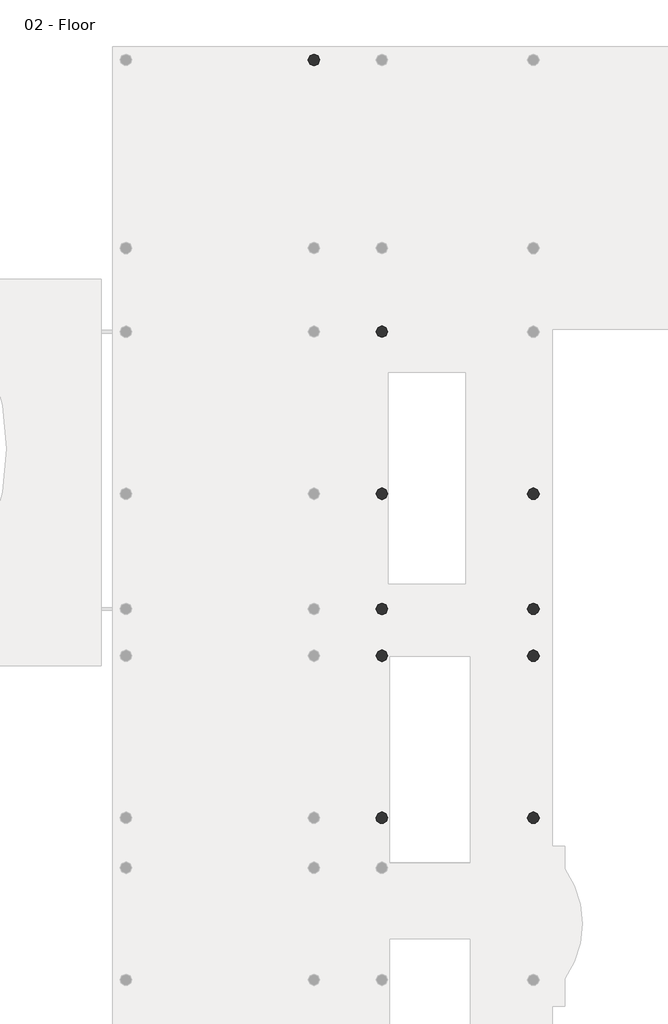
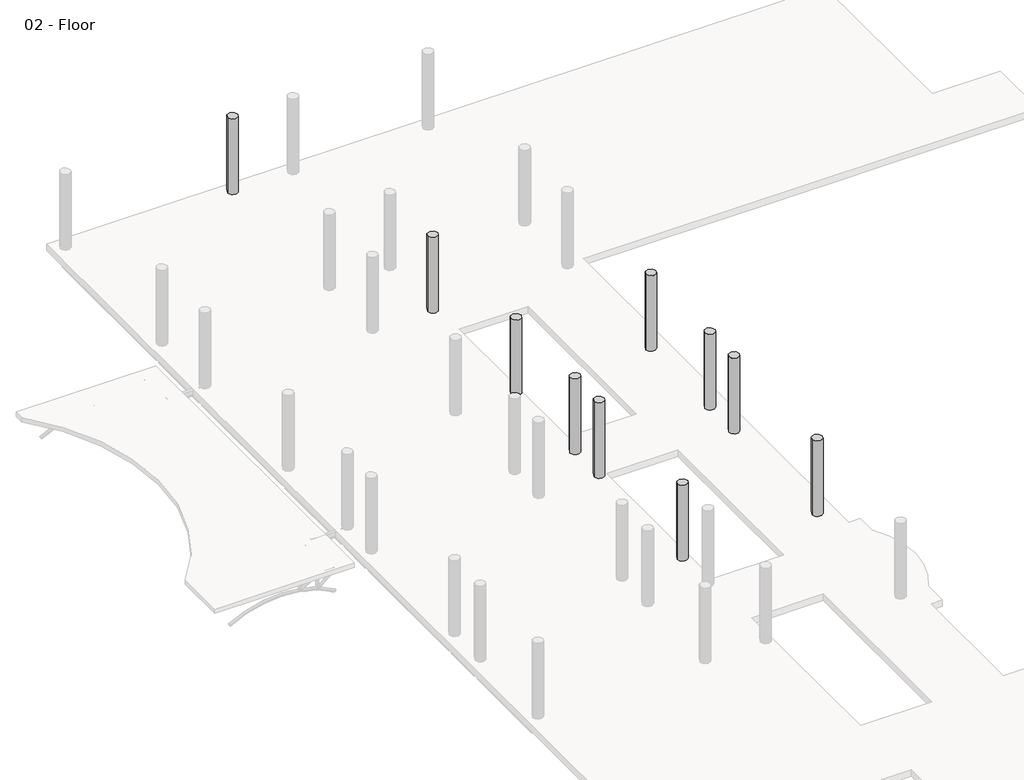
# One storey, part 8 of 9: 14 beams, 10 columns.
"""IFC4 building model written with IfcOpenShell, lengths in millimetres."""

from ifc_helpers import new_model, si_unit, point, frame, frame_2d, origin, place, context, project, spatial, polyline, circle_curve, trimmed, segment, composite_curve, outline, extrude, element, save
from ifc_brep_helpers import plane_surface, revolved_surface, advanced_brep

model = new_model("IFC4")

# Units and contexts
model_context = context("Model", 3, world=origin())
ifc_project = project(units=[si_unit("LENGTHUNIT", "METRE", prefix="MILLI")], contexts=[model_context])

# Site, building, storey
site = spatial("IfcSite", under=ifc_project)
building = spatial("IfcBuilding", under=site)
storey = spatial("IfcBuildingStorey", under=building, Name="02 - Floor", Elevation=3800.0)

# Beams
placement = place(None, origin())
element("IfcBeam", 1, ObjectType="M_Concrete-Rectangular Beam : 400 x 800mm", at=placement, inside=storey, context=model_context, shape_type="AdvancedBrep", body=[
    advanced_brep(
    [(554.8005584, 19324.2609793, 3000.0), (554.8005584, 19227.3386199, 3000.0), (554.8005584, 13328.1386199, 3000.0), (554.8005584, 13231.2162606, 3000.0), (554.8005584, 13231.2162606, 3500.0), (554.8005584, 13328.1386199, 3500.0), (554.8005584, 19227.3386199, 3500.0), (554.8005584, 19324.2609793, 3500.0), (857.878199, 19227.3386199, 3000.0), (954.8005584, 19227.3386199, 3000.0), (954.8005584, 13231.2162606, 3000.0), (954.8005584, 19227.3386199, 3500.0), (954.8005584, 13231.2162606, 3500.0), (857.878199, 19227.3386199, 3500.0)],
    [
        (0, 1),
        (1, 2),
        (2, 3),
        (3, 4),
        (4, 5),
        (5, 6),
        (6, 7),
        (7, 0),
        (0, 8, circle_curve(frame((754.8005584, 19427.3386199, 3000.0), z_axis=(0.0, 0.0, 1.0), x_axis=(-1.0, 0.0, 0.0)), 225.0)),
        (8, 9),
        (9, 10),
        (10, 3, circle_curve(frame((754.8005584, 13128.1386199, 3000.0), z_axis=(0.0, 0.0, 1.0), x_axis=(-1.0, 0.0, 0.0)), 225.0)),
        (9, 11),
        (11, 12),
        (12, 10),
        (7, 13, circle_curve(frame((754.8005584, 19427.3386199, 3500.0), z_axis=(0.0, 0.0, 1.0), x_axis=(-1.0, 0.0, 0.0)), 225.0)),
        (13, 8),
        (13, 11),
        (12, 4, circle_curve(frame((754.8005584, 13128.1386199, 3500.0), z_axis=(0.0, 0.0, 1.0), x_axis=(-1.0, 0.0, 0.0)), 225.0)),
    ],
    [
        plane_surface(frame((554.8005584, 13365.8386199, 3400.0), z_axis=(-1.0, 0.0, 0.0), x_axis=(0.0, 0.0, -1.0))),
        plane_surface(frame((754.8005584, 13365.8386199, 3000.0), z_axis=(0.0, 0.0, -1.0), x_axis=(1.0, 0.0, 0.0))),
        plane_surface(frame((954.8005584, 13365.8386199, 3400.0), z_axis=(1.0, 0.0, 0.0), x_axis=(0.0, 0.0, 1.0))),
        revolved_surface(polyline([(529.8005584, 19427.3386199, 3500.0), (529.8005584, 19427.3386199, 3000.0)]), (754.8005584, 19427.3386199, 0.0), (0.0, 0.0, 1.0)),
        plane_surface(frame((992.5005584, 19227.3386199, 3400.0), z_axis=(0.0, 1.0, 0.0), x_axis=(0.0, 0.0, 1.0))),
        revolved_surface(polyline([(529.8005584, 13128.1386199, 3500.0), (529.8005584, 13128.1386199, 3000.0)]), (754.8005584, 13128.1386199, 0.0), (0.0, 0.0, 1.0)),
        plane_surface(frame((24268.8999097, 30514.0407562, 3500.0), z_axis=(0.0, 0.0, 1.0), x_axis=(0.0, -1.0, 0.0))),
    ],
    [
        (0, [[1, 2, 3, 4, 5, 6, 7, 8]]),
        (1, [[9, 10, 11, 12, -3, -2, -1]]),
        (2, [[-11, 13, 14, 15]]),
        (3, [[-9, -8, 16, 17]]),
        (4, [[-10, -17, 18, -13]]),
        (5, [[-12, -15, 19, -4]]),
        (6, [[-7, -6, -5, -19, -14, -18, -16]]),
    ],
),
])
element("IfcBeam", 2, ObjectType="M_Concrete-Rectangular Beam : 400 x 800mm", at=placement, inside=storey, context=model_context, shape_type="AdvancedBrep", body=[
    advanced_brep(
    [(554.8005584, 8752.0162606, 3000.0), (554.8005584, 8752.0162606, 3500.0), (554.8005584, 8848.9386199, 3500.0), (554.8005584, 12928.1386199, 3500.0), (554.8005584, 12928.1386199, 3000.0), (554.8005584, 8848.9386199, 3000.0), (954.8005584, 13025.0609793, 3000.0), (954.8005584, 8848.9386199, 3000.0), (954.8005584, 8752.0162606, 3000.0), (651.7229178, 12928.1386199, 3000.0), (954.8005584, 13025.0609793, 3500.0), (954.8005584, 8848.9386199, 3500.0), (954.8005584, 8752.0162606, 3500.0), (651.7229178, 12928.1386199, 3500.0)],
    [
        (0, 1),
        (1, 2),
        (2, 3),
        (3, 4),
        (4, 5),
        (5, 0),
        (6, 7),
        (7, 8),
        (8, 0, circle_curve(frame((754.8005584, 8648.9386199, 3000.0), z_axis=(0.0, 0.0, 1.0), x_axis=(1.0, 0.0, 0.0)), 225.0)),
        (4, 9),
        (9, 6, circle_curve(frame((754.8005584, 13128.1386199, 3000.0), z_axis=(0.0, 0.0, 1.0), x_axis=(-1.0, 0.0, 0.0)), 225.0)),
        (6, 10),
        (10, 11),
        (11, 12),
        (12, 8),
        (9, 13),
        (13, 10, circle_curve(frame((754.8005584, 13128.1386199, 3500.0), z_axis=(0.0, 0.0, 1.0), x_axis=(-1.0, 0.0, 0.0)), 225.0)),
        (12, 1, circle_curve(frame((754.8005584, 8648.9386199, 3500.0), z_axis=(0.0, 0.0, 1.0), x_axis=(1.0, 0.0, 0.0)), 225.0)),
        (13, 3),
    ],
    [
        plane_surface(frame((554.8005584, 8886.6386199, 3400.0), z_axis=(-1.0, 0.0, 0.0), x_axis=(0.0, 0.0, -1.0))),
        plane_surface(frame((754.8005584, 8886.6386199, 3000.0), z_axis=(0.0, 0.0, -1.0), x_axis=(1.0, 0.0, 0.0))),
        plane_surface(frame((954.8005584, 8886.6386199, 3400.0), z_axis=(1.0, 0.0, 0.0), x_axis=(0.0, 0.0, 1.0))),
        revolved_surface(polyline([(529.8005584, 13128.1386199, 3500.0), (529.8005584, 13128.1386199, 3000.0)]), (754.8005584, 13128.1386199, 0.0), (0.0, 0.0, 1.0)),
        revolved_surface(polyline([(979.8005584, 8648.9386199, 3500.0), (979.8005584, 8648.9386199, 3000.0)]), (754.8005584, 8648.9386199, 0.0), (0.0, 0.0, 1.0)),
        plane_surface(frame((24268.8999097, 30514.0407562, 3500.0), z_axis=(0.0, 0.0, 1.0), x_axis=(0.0, -1.0, 0.0))),
        plane_surface(frame((-1649.0994416, 12928.1386199, 3400.0), z_axis=(0.0, 1.0, 0.0), x_axis=(0.0, 0.0, 1.0))),
    ],
    [
        (0, [[1, 2, 3, 4, 5, 6]]),
        (1, [[7, 8, 9, -6, -5, 10, 11]]),
        (2, [[-8, -7, 12, 13, 14, 15]]),
        (3, [[-12, -11, 16, 17]]),
        (4, [[-9, -15, 18, -1]]),
        (5, [[-14, -13, -17, 19, -3, -2, -18]]),
        (6, [[-4, -19, -16, -10]]),
    ],
),
])
element("IfcBeam", 3, ObjectType="M_Concrete-Rectangular Beam : 400 x 800mm", at=placement, inside=storey, context=model_context, shape_type="AdvancedBrep", body=[
    advanced_brep(
    [(554.8005584, 8448.9386199, 3000.0), (554.8005584, 7028.9386199, 3000.0), (554.8005584, 6932.0162606, 3000.0), (554.8005584, 6932.0162606, 3500.0), (554.8005584, 7028.9386199, 3500.0), (554.8005584, 8448.9386199, 3500.0), (954.8005584, 6932.0162606, 3000.0), (651.7229178, 8448.9386199, 3000.0), (954.8005584, 8545.8609793, 3000.0), (954.8005584, 8448.9386199, 3000.0), (954.8005584, 8545.8609793, 3500.0), (954.8005584, 8448.9386199, 3500.0), (954.8005584, 6932.0162606, 3500.0), (651.7229178, 8448.9386199, 3500.0)],
    [
        (0, 1),
        (1, 2),
        (2, 3),
        (3, 4),
        (4, 5),
        (5, 0),
        (6, 2, circle_curve(frame((754.8005584, 6828.9386199, 3000.0), z_axis=(0.0, 0.0, 1.0), x_axis=(-1.0, 0.0, 0.0)), 225.0)),
        (0, 7),
        (7, 8, circle_curve(frame((754.8005584, 8648.9386199, 3000.0), z_axis=(0.0, 0.0, 1.0), x_axis=(1.0, 0.0, 0.0)), 225.0)),
        (8, 9),
        (9, 6),
        (8, 10),
        (10, 11),
        (11, 12),
        (12, 6),
        (12, 3, circle_curve(frame((754.8005584, 6828.9386199, 3500.0), z_axis=(0.0, 0.0, 1.0), x_axis=(-1.0, 0.0, 0.0)), 225.0)),
        (7, 13),
        (13, 10, circle_curve(frame((754.8005584, 8648.9386199, 3500.0), z_axis=(0.0, 0.0, 1.0), x_axis=(1.0, 0.0, 0.0)), 225.0)),
        (5, 13),
    ],
    [
        plane_surface(frame((554.8005584, 7066.6386199, 3400.0), z_axis=(-1.0, 0.0, 0.0), x_axis=(0.0, 0.0, -1.0))),
        plane_surface(frame((754.8005584, 7066.6386199, 3000.0), z_axis=(0.0, 0.0, -1.0), x_axis=(1.0, 0.0, 0.0))),
        plane_surface(frame((954.8005584, 7066.6386199, 3400.0), z_axis=(1.0, 0.0, 0.0), x_axis=(0.0, 0.0, 1.0))),
        revolved_surface(polyline([(529.8005584, 6828.9386199, 3500.0), (529.8005584, 6828.9386199, 3000.0)]), (754.8005584, 6828.9386199, 0.0), (0.0, 0.0, 1.0)),
        revolved_surface(polyline([(979.8005584, 8648.9386199, 3500.0), (979.8005584, 8648.9386199, 3000.0)]), (754.8005584, 8648.9386199, 0.0), (0.0, 0.0, 1.0)),
        plane_surface(frame((517.1005584, 8448.9386199, 3400.0), z_axis=(0.0, 1.0, 0.0), x_axis=(0.0, 0.0, -1.0))),
        plane_surface(frame((24268.8999097, 30514.0407562, 3500.0), z_axis=(0.0, 0.0, 1.0), x_axis=(0.0, -1.0, 0.0))),
    ],
    [
        (0, [[1, 2, 3, 4, 5, 6]]),
        (1, [[7, -2, -1, 8, 9, 10, 11]]),
        (2, [[-11, -10, 12, 13, 14, 15]]),
        (3, [[-7, -15, 16, -3]]),
        (4, [[-9, 17, 18, -12]]),
        (5, [[-8, -6, 19, -17]]),
        (6, [[-5, -4, -16, -14, -13, -18, -19]]),
    ],
),
])
element("IfcBeam", 4, ObjectType="M_Concrete-Rectangular Beam : 400 x 800mm", at=placement, inside=storey, context=model_context, shape_type="AdvancedBrep", body=[
    advanced_brep(
    [(554.8005584, 632.8162606, 3000.0), (554.8005584, 632.8162606, 3500.0), (554.8005584, 729.7386199, 3500.0), (554.8005584, 6628.9386199, 3500.0), (554.8005584, 6628.9386199, 3000.0), (554.8005584, 729.7386199, 3000.0), (954.8005584, 6725.8609793, 3000.0), (954.8005584, 632.8162606, 3000.0), (651.7229178, 6628.9386199, 3000.0), (954.8005584, 6725.8609793, 3500.0), (954.8005584, 632.8162606, 3500.0), (651.7229178, 6628.9386199, 3500.0)],
    [
        (0, 1),
        (1, 2),
        (2, 3),
        (3, 4),
        (4, 5),
        (5, 0),
        (6, 7),
        (7, 0, circle_curve(frame((754.8005584, 529.7386199, 3000.0), z_axis=(0.0, 0.0, 1.0), x_axis=(-1.0, 0.0, 0.0)), 225.0)),
        (4, 8),
        (8, 6, circle_curve(frame((754.8005584, 6828.9386199, 3000.0), z_axis=(0.0, 0.0, 1.0), x_axis=(-1.0, 0.0, 0.0)), 225.0)),
        (6, 9),
        (9, 10),
        (10, 7),
        (8, 11),
        (11, 9, circle_curve(frame((754.8005584, 6828.9386199, 3500.0), z_axis=(0.0, 0.0, 1.0), x_axis=(-1.0, 0.0, 0.0)), 225.0)),
        (10, 1, circle_curve(frame((754.8005584, 529.7386199, 3500.0), z_axis=(0.0, 0.0, 1.0), x_axis=(-1.0, 0.0, 0.0)), 225.0)),
        (11, 3),
    ],
    [
        plane_surface(frame((554.8005584, 767.4386199, 3400.0), z_axis=(-1.0, 0.0, 0.0), x_axis=(0.0, 0.0, -1.0))),
        plane_surface(frame((754.8005584, 767.4386199, 3000.0), z_axis=(0.0, 0.0, -1.0), x_axis=(1.0, 0.0, 0.0))),
        plane_surface(frame((954.8005584, 767.4386199, 3400.0), z_axis=(1.0, 0.0, 0.0), x_axis=(0.0, 0.0, 1.0))),
        revolved_surface(polyline([(529.8005584, 6828.9386199, 3500.0), (529.8005584, 6828.9386199, 3000.0)]), (754.8005584, 6828.9386199, 0.0), (0.0, 0.0, 1.0)),
        revolved_surface(polyline([(529.8005584, 529.7386199, 3500.0), (529.8005584, 529.7386199, 3000.0)]), (754.8005584, 529.7386199, 0.0), (0.0, 0.0, 1.0)),
        plane_surface(frame((24268.8999097, 30514.0407562, 3500.0), z_axis=(0.0, 0.0, 1.0), x_axis=(0.0, -1.0, 0.0))),
        plane_surface(frame((-1649.0994416, 6628.9386199, 3400.0), z_axis=(0.0, 1.0, 0.0), x_axis=(0.0, 0.0, 1.0))),
    ],
    [
        (0, [[1, 2, 3, 4, 5, 6]]),
        (1, [[7, 8, -6, -5, 9, 10]]),
        (2, [[-7, 11, 12, 13]]),
        (3, [[-11, -10, 14, 15]]),
        (4, [[-8, -13, 16, -1]]),
        (5, [[-12, -15, 17, -3, -2, -16]]),
        (6, [[-4, -17, -14, -9]]),
    ],
),
])
element("IfcBeam", 5, ObjectType="M_Concrete-Rectangular Beam : 400 x 800mm", at=placement, inside=storey, context=model_context, shape_type="AdvancedBrep", body=[
    advanced_brep(
    [(6447.6005584, 19324.2609793, 3000.0), (6447.6005584, 19227.3386199, 3000.0), (6447.6005584, 13231.2162606, 3000.0), (6447.6005584, 13231.2162606, 3500.0), (6447.6005584, 19227.3386199, 3500.0), (6447.6005584, 19324.2609793, 3500.0), (6847.6005584, 19324.2609793, 3000.0), (6847.6005584, 13231.2162606, 3000.0), (6847.6005584, 19324.2609793, 3500.0), (6847.6005584, 13231.2162606, 3500.0)],
    [
        (0, 1),
        (1, 2),
        (2, 3),
        (3, 4),
        (4, 5),
        (5, 0),
        (0, 6, circle_curve(frame((6647.6005584, 19427.3386199, 3000.0), z_axis=(0.0, 0.0, 1.0), x_axis=(-1.0, 0.0, 0.0)), 225.0)),
        (6, 7),
        (7, 2, circle_curve(frame((6647.6005584, 13128.1386199, 3000.0), z_axis=(0.0, 0.0, 1.0), x_axis=(-1.0, 0.0, 0.0)), 225.0)),
        (6, 8),
        (8, 9),
        (9, 7),
        (5, 8, circle_curve(frame((6647.6005584, 19427.3386199, 3500.0), z_axis=(0.0, 0.0, 1.0), x_axis=(-1.0, 0.0, 0.0)), 225.0)),
        (9, 3, circle_curve(frame((6647.6005584, 13128.1386199, 3500.0), z_axis=(0.0, 0.0, 1.0), x_axis=(-1.0, 0.0, 0.0)), 225.0)),
    ],
    [
        plane_surface(frame((6447.6005584, 13365.8386199, 3400.0), z_axis=(-1.0, 0.0, 0.0), x_axis=(0.0, 0.0, -1.0))),
        plane_surface(frame((6647.6005584, 13365.8386199, 3000.0), z_axis=(0.0, 0.0, -1.0), x_axis=(1.0, 0.0, 0.0))),
        plane_surface(frame((6847.6005584, 13365.8386199, 3400.0), z_axis=(1.0, 0.0, 0.0), x_axis=(0.0, 0.0, 1.0))),
        revolved_surface(polyline([(6422.6005584, 19427.3386199, 3500.0), (6422.6005584, 19427.3386199, 3000.0)]), (6647.6005584, 19427.3386199, 0.0), (0.0, 0.0, 1.0)),
        revolved_surface(polyline([(6422.6005584, 13128.1386199, 3500.0), (6422.6005584, 13128.1386199, 3000.0)]), (6647.6005584, 13128.1386199, 0.0), (0.0, 0.0, 1.0)),
        plane_surface(frame((24268.8999097, 30514.0407562, 3500.0), z_axis=(0.0, 0.0, 1.0), x_axis=(0.0, -1.0, 0.0))),
    ],
    [
        (0, [[1, 2, 3, 4, 5, 6]]),
        (1, [[7, 8, 9, -2, -1]]),
        (2, [[-8, 10, 11, 12]]),
        (3, [[-7, -6, 13, -10]]),
        (4, [[-9, -12, 14, -3]]),
        (5, [[-5, -4, -14, -11, -13]]),
    ],
),
])
element("IfcBeam", 6, ObjectType="M_Concrete-Rectangular Beam : 400 x 800mm", at=placement, inside=storey, context=model_context, shape_type="AdvancedBrep", body=[
    advanced_brep(
    [(6447.6005584, 13025.0609793, 3000.0), (6447.6005584, 8848.9386199, 3000.0), (6447.6005584, 8752.0162606, 3000.0), (6447.6005584, 8752.0162606, 3500.0), (6447.6005584, 8848.9386199, 3500.0), (6447.6005584, 13025.0609793, 3500.0), (6847.6005584, 13025.0609793, 3000.0), (6847.6005584, 8752.0162606, 3000.0), (6847.6005584, 13025.0609793, 3500.0), (6847.6005584, 8752.0162606, 3500.0)],
    [
        (0, 1),
        (1, 2),
        (2, 3),
        (3, 4),
        (4, 5),
        (5, 0),
        (0, 6, circle_curve(frame((6647.6005584, 13128.1386199, 3000.0), z_axis=(0.0, 0.0, 1.0), x_axis=(-1.0, 0.0, 0.0)), 225.0)),
        (6, 7),
        (7, 2, circle_curve(frame((6647.6005584, 8648.9386199, 3000.0), z_axis=(0.0, 0.0, 1.0), x_axis=(1.0, 0.0, 0.0)), 225.0)),
        (6, 8),
        (8, 9),
        (9, 7),
        (5, 8, circle_curve(frame((6647.6005584, 13128.1386199, 3500.0), z_axis=(0.0, 0.0, 1.0), x_axis=(-1.0, 0.0, 0.0)), 225.0)),
        (9, 3, circle_curve(frame((6647.6005584, 8648.9386199, 3500.0), z_axis=(0.0, 0.0, 1.0), x_axis=(1.0, 0.0, 0.0)), 225.0)),
    ],
    [
        plane_surface(frame((6447.6005584, 8886.6386199, 3400.0), z_axis=(-1.0, 0.0, 0.0), x_axis=(0.0, 0.0, -1.0))),
        plane_surface(frame((6647.6005584, 8886.6386199, 3000.0), z_axis=(0.0, 0.0, -1.0), x_axis=(1.0, 0.0, 0.0))),
        plane_surface(frame((6847.6005584, 8886.6386199, 3400.0), z_axis=(1.0, 0.0, 0.0), x_axis=(0.0, 0.0, 1.0))),
        revolved_surface(polyline([(6422.6005584, 13128.1386199, 3500.0), (6422.6005584, 13128.1386199, 3000.0)]), (6647.6005584, 13128.1386199, 0.0), (0.0, 0.0, 1.0)),
        revolved_surface(polyline([(6872.6005584, 8648.9386199, 3500.0), (6872.6005584, 8648.9386199, 3000.0)]), (6647.6005584, 8648.9386199, 0.0), (0.0, 0.0, 1.0)),
        plane_surface(frame((24268.8999097, 30514.0407562, 3500.0), z_axis=(0.0, 0.0, 1.0), x_axis=(0.0, -1.0, 0.0))),
    ],
    [
        (0, [[1, 2, 3, 4, 5, 6]]),
        (1, [[7, 8, 9, -2, -1]]),
        (2, [[-8, 10, 11, 12]]),
        (3, [[-7, -6, 13, -10]]),
        (4, [[-9, -12, 14, -3]]),
        (5, [[-5, -4, -14, -11, -13]]),
    ],
),
])
element("IfcBeam", 7, ObjectType="M_Concrete-Rectangular Beam : 400 x 800mm", at=placement, inside=storey, context=model_context, shape_type="SweptSolid", body=[
    extrude(outline(composite_curve([segment(trimmed(circle_curve(frame_2d((6647.6005584, 6828.9386199)), 225.0), [point((6847.6005584, 6932.0162606))], [point((6447.6005584, 6932.0162606))], True, "CARTESIAN"), True, "CONTINUOUS"), segment(polyline([(6447.6005584, 6932.0162606), (6447.6005584, 8448.9386199), (6544.5229178, 8448.9386199)]), True, "CONTINUOUS"), segment(trimmed(circle_curve(frame_2d((6647.6005584, 8648.9386199)), 225.0), [point((6544.5229178, 8448.9386199))], [point((6847.6005584, 8545.8609793))], True, "CARTESIAN"), True, "CONTINUOUS"), segment(polyline([(6847.6005584, 8545.8609793), (6847.6005584, 6932.0162606)]), True, "CONTINUOUS")], self_intersect=False)), frame((0.0, 0.0, 3000.0), z_axis=(0.0, 0.0, 1.0), x_axis=(1.0, 0.0, 0.0)), (0.0, 0.0, 1.0), 500.0),
])
element("IfcBeam", 8, ObjectType="M_Concrete-Rectangular Beam : 400 x 800mm", at=placement, inside=storey, context=model_context, shape_type="SweptSolid", body=[
    extrude(outline(composite_curve([segment(trimmed(circle_curve(frame_2d((6647.6005584, 6828.9386199)), 225.0), [point((6447.6005584, 6725.8609793))], [point((6847.6005584, 6725.8609793))], True, "CARTESIAN"), True, "CONTINUOUS"), segment(polyline([(6847.6005584, 6725.8609793), (6847.6005584, 632.8162606)]), True, "CONTINUOUS"), segment(trimmed(circle_curve(frame_2d((6647.6005584, 529.7386199)), 225.0), [point((6847.6005584, 632.8162606))], [point((6447.6005584, 632.8162606))], True, "CARTESIAN"), True, "CONTINUOUS"), segment(polyline([(6447.6005584, 632.8162606), (6447.6005584, 6725.8609793)]), True, "CONTINUOUS")], self_intersect=False)), frame((0.0, 0.0, 3000.0), z_axis=(0.0, 0.0, 1.0), x_axis=(1.0, 0.0, 0.0)), (0.0, 0.0, 1.0), 500.0),
])
element("IfcBeam", 9, ObjectType="M_Concrete-Rectangular Beam : 400 x 800mm", at=placement, inside=storey, context=model_context, shape_type="SweptSolid", body=[
    extrude(outline(composite_curve([segment(polyline([(554.8005584, 29890.6609793), (554.8005584, 29793.7386199), (-1586.7994416, 29793.7386199), (-1586.7994416, 30193.7386199), (651.7229178, 30193.7386199)]), True, "CONTINUOUS"), segment(trimmed(circle_curve(frame_2d((754.8005584, 29993.7386199)), 225.0), [point((651.7229178, 30193.7386199))], [point((529.8005584, 29993.7386199))], True, "CARTESIAN"), True, "CONTINUOUS"), segment(trimmed(circle_curve(frame_2d((754.8005584, 29993.7386199)), 225.0), [point((529.8005584, 29993.7386199))], [point((554.8005584, 29890.6609793))], True, "CARTESIAN"), True, "CONTINUOUS")], self_intersect=False)), frame((0.0, 0.0, 3000.0), z_axis=(0.0, 0.0, 1.0), x_axis=(1.0, 0.0, 0.0)), (0.0, 0.0, 1.0), 500.0),
])
element("IfcBeam", 10, ObjectType="M_Concrete-Rectangular Beam : 400 x 800mm", at=placement, inside=storey, context=model_context, shape_type="SweptSolid", body=[
    extrude(outline(composite_curve([segment(polyline([(-9001.9994416, 29793.7386199), (-9001.9994416, 29890.6609793)]), True, "CONTINUOUS"), segment(trimmed(circle_curve(frame_2d((-9201.9994416, 29993.7386199)), 225.0), [point((-9001.9994416, 29890.6609793))], [point((-8976.9994416, 29993.7386199))], True, "CARTESIAN"), True, "CONTINUOUS"), segment(trimmed(circle_curve(frame_2d((-9201.9994416, 29993.7386199)), 225.0), [point((-8976.9994416, 29993.7386199))], [point((-9098.921801, 30193.7386199))], True, "CARTESIAN"), True, "CONTINUOUS"), segment(polyline([(-9098.921801, 30193.7386199), (-2186.7994416, 30193.7386199), (-2186.7994416, 29793.7386199), (-9001.9994416, 29793.7386199)]), True, "CONTINUOUS")], self_intersect=False)), frame((0.0, 0.0, 3000.0), z_axis=(0.0, 0.0, 1.0), x_axis=(1.0, 0.0, 0.0)), (0.0, 0.0, 1.0), 500.0),
])
element("IfcBeam", 11, ObjectType="M_Concrete-Rectangular Beam : 400 x 800mm", at=placement, inside=storey, context=model_context, shape_type="AdvancedBrep", body=[
    advanced_brep(
    [(6544.5229178, 19627.3386199, 3000.0), (954.8005584, 19627.3386199, 3000.0), (954.8005584, 19627.3386199, 3500.0), (6497.6005584, 19627.3386199, 3500.0), (6544.5229178, 19627.3386199, 3500.0), (6544.5229178, 19627.3386199, 3200.0), (857.878199, 19227.3386199, 3000.0), (979.8005584, 19427.3386199, 3000.0), (954.8005584, 19530.4162606, 3000.0), (6422.6005584, 19427.3386199, 3000.0), (6447.6005584, 19324.2609793, 3000.0), (6447.6005584, 19227.3386199, 3000.0), (954.8005584, 19227.3386199, 3000.0), (857.878199, 19227.3386199, 3500.0), (6447.6005584, 19227.3386199, 3500.0), (954.8005584, 19227.3386199, 3500.0), (979.8005584, 19427.3386199, 3500.0), (954.8005584, 19530.4162606, 3500.0), (6422.6005584, 19427.3386199, 3500.0), (6447.6005584, 19324.2609793, 3500.0)],
    [
        (0, 1),
        (1, 2),
        (2, 3),
        (3, 4),
        (4, 5),
        (5, 0),
        (6, 7, circle_curve(frame((754.8005584, 19427.3386199, 3000.0), z_axis=(0.0, 0.0, 1.0), x_axis=(-1.0, 0.0, 0.0)), 225.0)),
        (7, 8, circle_curve(frame((754.8005584, 19427.3386199, 3000.0), z_axis=(0.0, 0.0, 1.0), x_axis=(-1.0, 0.0, 0.0)), 225.0)),
        (8, 1),
        (0, 9, circle_curve(frame((6647.6005584, 19427.3386199, 3000.0), z_axis=(0.0, 0.0, 1.0), x_axis=(-1.0, 0.0, 0.0)), 225.0)),
        (9, 10, circle_curve(frame((6647.6005584, 19427.3386199, 3000.0), z_axis=(0.0, 0.0, 1.0), x_axis=(-1.0, 0.0, 0.0)), 225.0)),
        (10, 11),
        (11, 12),
        (12, 6),
        (13, 6),
        (11, 14),
        (14, 15),
        (15, 13),
        (13, 16, circle_curve(frame((754.8005584, 19427.3386199, 3500.0), z_axis=(0.0, 0.0, 1.0), x_axis=(-1.0, 0.0, 0.0)), 225.0)),
        (16, 7),
        (16, 17, circle_curve(frame((754.8005584, 19427.3386199, 3500.0), z_axis=(0.0, 0.0, 1.0), x_axis=(-1.0, 0.0, 0.0)), 225.0)),
        (17, 8),
        (9, 18),
        (18, 19, circle_curve(frame((6647.6005584, 19427.3386199, 3500.0), z_axis=(0.0, 0.0, 1.0), x_axis=(-1.0, 0.0, 0.0)), 225.0)),
        (19, 10),
        (4, 18, circle_curve(frame((6647.6005584, 19427.3386199, 3500.0), z_axis=(0.0, 0.0, 1.0), x_axis=(-1.0, 0.0, 0.0)), 225.0)),
        (17, 2),
        (14, 19),
    ],
    [
        plane_surface(frame((992.5005584, 19627.3386199, 3400.0), z_axis=(0.0, 1.0, 0.0), x_axis=(0.0, 0.0, -1.0))),
        plane_surface(frame((992.5005584, 19427.3386199, 3000.0), z_axis=(0.0, 0.0, -1.0), x_axis=(0.0, -1.0, 0.0))),
        plane_surface(frame((992.5005584, 19227.3386199, 3400.0), z_axis=(0.0, -1.0, 0.0), x_axis=(0.0, 0.0, 1.0))),
        revolved_surface(polyline([(529.8005584, 19427.3386199, 3500.0), (529.8005584, 19427.3386199, 3000.0)]), (754.8005584, 19427.3386199, 0.0), (0.0, 0.0, 1.0)),
        revolved_surface(polyline([(6422.6005584, 19427.3386199, 3500.0), (6422.6005584, 19427.3386199, 3000.0)]), (6647.6005584, 19427.3386199, 0.0), (0.0, 0.0, 1.0)),
        plane_surface(frame((954.8005584, 19665.0386199, 3400.0), z_axis=(-1.0, 0.0, 0.0), x_axis=(0.0, 0.0, 1.0))),
        plane_surface(frame((24268.8999097, 30514.0407562, 3500.0), z_axis=(0.0, 0.0, 1.0), x_axis=(0.0, -1.0, 0.0))),
        plane_surface(frame((6447.6005584, 13365.8386199, 3400.0), z_axis=(1.0, 0.0, 0.0), x_axis=(0.0, 0.0, -1.0))),
    ],
    [
        (0, [[1, 2, 3, 4, 5, 6]]),
        (1, [[7, 8, 9, -1, 10, 11, 12, 13, 14]]),
        (2, [[15, -14, -13, 16, 17, 18]]),
        (3, [[-7, -15, 19, 20]]),
        (3, [[-8, -20, 21, 22]]),
        (4, [[23, 24, 25, -11]]),
        (4, [[-10, -6, -5, 26, -23]]),
        (5, [[-9, -22, 27, -2]]),
        (6, [[-4, -3, -27, -21, -19, -18, -17, 28, -24, -26]]),
        (7, [[-12, -25, -28, -16]]),
    ],
),
])
element("IfcBeam", 12, ObjectType="M_Concrete-Rectangular Beam : 400 x 800mm", at=placement, inside=storey, context=model_context, shape_type="AdvancedBrep", body=[
    advanced_brep(
    [(954.8005584, 8448.9386199, 3000.0), (6447.6005584, 8448.9386199, 3000.0), (6544.5229178, 8448.9386199, 3000.0), (6544.5229178, 8448.9386199, 3500.0), (6447.6005584, 8448.9386199, 3500.0), (954.8005584, 8448.9386199, 3500.0), (954.8005584, 8545.8609793, 3000.0), (979.8005584, 8648.9386199, 3000.0), (954.8005584, 8752.0162606, 3000.0), (954.8005584, 8848.9386199, 3000.0), (6447.6005584, 8848.9386199, 3000.0), (6447.6005584, 8752.0162606, 3000.0), (6422.6005584, 8648.9386199, 3000.0), (954.8005584, 8848.9386199, 3500.0), (6447.6005584, 8848.9386199, 3500.0), (979.8005584, 8648.9386199, 3500.0), (954.8005584, 8752.0162606, 3500.0), (954.8005584, 8545.8609793, 3500.0), (6447.6005584, 8752.0162606, 3500.0), (6422.6005584, 8648.9386199, 3500.0)],
    [
        (0, 1),
        (1, 2),
        (2, 3),
        (3, 4),
        (4, 5),
        (5, 0),
        (6, 7, circle_curve(frame((754.8005584, 8648.9386199, 3000.0), z_axis=(0.0, 0.0, 1.0), x_axis=(1.0, 0.0, 0.0)), 225.0)),
        (7, 8, circle_curve(frame((754.8005584, 8648.9386199, 3000.0), z_axis=(0.0, 0.0, 1.0), x_axis=(1.0, 0.0, 0.0)), 225.0)),
        (8, 9),
        (9, 10),
        (10, 11),
        (11, 12, circle_curve(frame((6647.6005584, 8648.9386199, 3000.0), z_axis=(0.0, 0.0, 1.0), x_axis=(1.0, 0.0, 0.0)), 225.0)),
        (12, 2, circle_curve(frame((6647.6005584, 8648.9386199, 3000.0), z_axis=(0.0, 0.0, 1.0), x_axis=(1.0, 0.0, 0.0)), 225.0)),
        (0, 6),
        (9, 13),
        (13, 14),
        (14, 10),
        (7, 15),
        (15, 16, circle_curve(frame((754.8005584, 8648.9386199, 3500.0), z_axis=(0.0, 0.0, 1.0), x_axis=(1.0, 0.0, 0.0)), 225.0)),
        (16, 8),
        (6, 17),
        (17, 15, circle_curve(frame((754.8005584, 8648.9386199, 3500.0), z_axis=(0.0, 0.0, 1.0), x_axis=(1.0, 0.0, 0.0)), 225.0)),
        (5, 17),
        (16, 13),
        (11, 18),
        (18, 19, circle_curve(frame((6647.6005584, 8648.9386199, 3500.0), z_axis=(0.0, 0.0, 1.0), x_axis=(1.0, 0.0, 0.0)), 225.0)),
        (19, 12),
        (19, 3, circle_curve(frame((6647.6005584, 8648.9386199, 3500.0), z_axis=(0.0, 0.0, 1.0), x_axis=(1.0, 0.0, 0.0)), 225.0)),
        (14, 18),
    ],
    [
        plane_surface(frame((6409.9005584, 8448.9386199, 3400.0), z_axis=(0.0, -1.0, 0.0), x_axis=(0.0, 0.0, -1.0))),
        plane_surface(frame((6409.9005584, 8648.9386199, 3000.0), z_axis=(0.0, 0.0, -1.0), x_axis=(0.0, 1.0, 0.0))),
        plane_surface(frame((6409.9005584, 8848.9386199, 3400.0), z_axis=(0.0, 1.0, 0.0), x_axis=(0.0, 0.0, 1.0))),
        revolved_surface(polyline([(979.8005584, 8648.9386199, 3500.0), (979.8005584, 8648.9386199, 3000.0)]), (754.8005584, 8648.9386199, 0.0), (0.0, 0.0, 1.0)),
        plane_surface(frame((954.8005584, 7066.6386199, 3400.0), z_axis=(-1.0, 0.0, 0.0), x_axis=(0.0, 0.0, 1.0))),
        plane_surface(frame((954.8005584, 8886.6386199, 3400.0), z_axis=(-1.0, 0.0, 0.0), x_axis=(0.0, 0.0, 1.0))),
        revolved_surface(polyline([(6872.6005584, 8648.9386199, 3500.0), (6872.6005584, 8648.9386199, 3000.0)]), (6647.6005584, 8648.9386199, 0.0), (0.0, 0.0, 1.0)),
        plane_surface(frame((6447.6005584, 8886.6386199, 3400.0), z_axis=(1.0, 0.0, 0.0), x_axis=(0.0, 0.0, -1.0))),
        plane_surface(frame((24268.8999097, 30514.0407562, 3500.0), z_axis=(0.0, 0.0, 1.0), x_axis=(0.0, -1.0, 0.0))),
    ],
    [
        (0, [[1, 2, 3, 4, 5, 6]]),
        (1, [[7, 8, 9, 10, 11, 12, 13, -2, -1, 14]]),
        (2, [[-10, 15, 16, 17]]),
        (3, [[-8, 18, 19, 20]]),
        (3, [[-7, 21, 22, -18]]),
        (4, [[-14, -6, 23, -21]]),
        (5, [[-9, -20, 24, -15]]),
        (6, [[-12, 25, 26, 27]]),
        (6, [[-13, -27, 28, -3]]),
        (7, [[-11, -17, 29, -25]]),
        (8, [[-5, -4, -28, -26, -29, -16, -24, -19, -22, -23]]),
    ],
),
])
element("IfcBeam", 13, ObjectType="M_Concrete-Rectangular Beam : 400 x 800mm", at=placement, inside=storey, context=model_context, shape_type="SweptSolid", body=[
    extrude(outline(polyline([(-9001.9994416, 27964.9386199), (-9001.9994416, 28364.9386199), (-2186.7994416, 28364.9386199), (-2186.7994416, 27964.9386199), (-9001.9994416, 27964.9386199)])), frame((0.0, 0.0, 3000.0), z_axis=(0.0, 0.0, 1.0), x_axis=(1.0, 0.0, 0.0)), (0.0, 0.0, 1.0), 500.0),
])
element("IfcBeam", 14, ObjectType="M_Concrete-Rectangular Beam : 600 x 900", at=placement, inside=storey, context=model_context, shape_type="AdvancedBrep", body=[
    advanced_brep(
    [(-2186.7994416, 30193.7386199, 2900.0), (-2186.7994416, 22478.5386199, 2900.0), (-2186.7994416, 22478.5386199, 3000.0), (-2186.7994416, 22478.5386199, 3500.0), (-2186.7994416, 22878.5386199, 3500.0), (-2186.7994416, 24307.3386199, 3500.0), (-2186.7994416, 24707.3386199, 3500.0), (-2186.7994416, 26136.1386199, 3500.0), (-2186.7994416, 26536.1386199, 3500.0), (-2186.7994416, 27964.9386199, 3500.0), (-2186.7994416, 28364.9386199, 3500.0), (-2186.7994416, 29793.7386199, 3500.0), (-2186.7994416, 30193.7386199, 3500.0), (-2186.7994416, 30193.7386199, 3000.0), (-1989.8770822, 30193.7386199, 2900.0), (-2111.7994416, 29993.7386199, 2900.0), (-1661.7994416, 29993.7386199, 2900.0), (-1783.721801, 30193.7386199, 2900.0), (-1586.7994416, 30193.7386199, 2900.0), (-1586.7994416, 22478.5386199, 2900.0), (-1783.721801, 22478.5386199, 2900.0), (-1661.7994416, 22678.5386199, 2900.0), (-2111.7994416, 22678.5386199, 2900.0), (-1989.8770822, 22478.5386199, 2900.0), (-1586.7994416, 30193.7386199, 3000.0), (-1586.7994416, 30193.7386199, 3500.0), (-1586.7994416, 29793.7386199, 3500.0), (-1586.7994416, 22878.5386199, 3500.0), (-1586.7994416, 22478.5386199, 3500.0), (-1586.7994416, 22478.5386199, 3000.0), (-1783.721801, 30193.7386199, 3500.0), (-1783.721801, 22478.5386199, 3500.0), (-2111.7994416, 29993.7386199, 3500.0), (-1661.7994416, 29993.7386199, 3500.0), (-1989.8770822, 30193.7386199, 3500.0), (-2111.7994416, 22678.5386199, 3500.0), (-1989.8770822, 22478.5386199, 3500.0), (-1661.7994416, 22678.5386199, 3500.0)],
    [
        (0, 1),
        (1, 2),
        (2, 3),
        (3, 4),
        (4, 5),
        (5, 6),
        (6, 7),
        (7, 8),
        (8, 9),
        (9, 10),
        (10, 11),
        (11, 12),
        (12, 13),
        (13, 0),
        (0, 14),
        (14, 15, circle_curve(frame((-1886.7994416, 29993.7386199, 2900.0), z_axis=(0.0, 0.0, 1.0), x_axis=(-1.0, 0.0, 0.0)), 225.0)),
        (15, 16, circle_curve(frame((-1886.7994416, 29993.7386199, 2900.0), z_axis=(0.0, 0.0, 1.0), x_axis=(-1.0, 0.0, 0.0)), 225.0)),
        (16, 17, circle_curve(frame((-1886.7994416, 29993.7386199, 2900.0), z_axis=(0.0, 0.0, 1.0), x_axis=(-1.0, 0.0, 0.0)), 225.0)),
        (17, 18),
        (18, 19),
        (19, 20),
        (20, 21, circle_curve(frame((-1886.7994416, 22678.5386199, 2900.0), z_axis=(0.0, 0.0, 1.0), x_axis=(-1.0, 0.0, 0.0)), 225.0)),
        (21, 22, circle_curve(frame((-1886.7994416, 22678.5386199, 2900.0), z_axis=(0.0, 0.0, 1.0), x_axis=(-1.0, 0.0, 0.0)), 225.0)),
        (22, 23, circle_curve(frame((-1886.7994416, 22678.5386199, 2900.0), z_axis=(0.0, 0.0, 1.0), x_axis=(-1.0, 0.0, 0.0)), 225.0)),
        (23, 1),
        (18, 24),
        (24, 25),
        (25, 26),
        (26, 27),
        (27, 28),
        (28, 29),
        (29, 19),
        (17, 30),
        (30, 25),
        (28, 31),
        (31, 20),
        (15, 32),
        (32, 33, circle_curve(frame((-1886.7994416, 29993.7386199, 3500.0), z_axis=(0.0, 0.0, 1.0), x_axis=(-1.0, 0.0, 0.0)), 225.0)),
        (33, 16),
        (33, 30, circle_curve(frame((-1886.7994416, 29993.7386199, 3500.0), z_axis=(0.0, 0.0, 1.0), x_axis=(-1.0, 0.0, 0.0)), 225.0)),
        (12, 34),
        (34, 14),
        (34, 32, circle_curve(frame((-1886.7994416, 29993.7386199, 3500.0), z_axis=(0.0, 0.0, 1.0), x_axis=(-1.0, 0.0, 0.0)), 225.0)),
        (22, 35),
        (35, 36, circle_curve(frame((-1886.7994416, 22678.5386199, 3500.0), z_axis=(0.0, 0.0, 1.0), x_axis=(-1.0, 0.0, 0.0)), 225.0)),
        (36, 23),
        (21, 37),
        (37, 35, circle_curve(frame((-1886.7994416, 22678.5386199, 3500.0), z_axis=(0.0, 0.0, 1.0), x_axis=(-1.0, 0.0, 0.0)), 225.0)),
        (36, 3),
        (31, 37, circle_curve(frame((-1886.7994416, 22678.5386199, 3500.0), z_axis=(0.0, 0.0, 1.0), x_axis=(-1.0, 0.0, 0.0)), 225.0)),
    ],
    [
        plane_surface(frame((-2186.7994416, 22916.2386199, 3800.0), z_axis=(-1.0, 0.0, 0.0), x_axis=(0.0, 1.0, 0.0))),
        plane_surface(frame((-2186.7994416, 22916.2386199, 2900.0), z_axis=(0.0, 0.0, -1.0), x_axis=(0.0, 1.0, 0.0))),
        plane_surface(frame((-1586.7994416, 22916.2386199, 2900.0), z_axis=(1.0, 0.0, 0.0), x_axis=(0.0, 1.0, 0.0))),
        plane_surface(frame((-1562.8703581, 30193.7386199, 3000.0), z_axis=(0.0, 1.0, 0.0), x_axis=(-1.0, 0.0, 0.0))),
        plane_surface(frame((-1562.8703581, 22478.5386199, 3800.0), z_axis=(0.0, -1.0, 0.0), x_axis=(-1.0, 0.0, 0.0))),
        revolved_surface(polyline([(-2111.7994416, 29993.7386199, 3500.0), (-2111.7994416, 29993.7386199, 2900.0)]), (-1886.7994416, 29993.7386199, 0.0), (0.0, 0.0, 1.0)),
        revolved_surface(polyline([(-2111.7994416, 22678.5386199, 3500.0), (-2111.7994416, 22678.5386199, 2900.0)]), (-1886.7994416, 22678.5386199, 0.0), (0.0, 0.0, 1.0)),
        plane_surface(frame((24268.8999097, 30514.0407562, 3500.0), z_axis=(0.0, 0.0, 1.0), x_axis=(0.0, -1.0, 0.0))),
    ],
    [
        (0, [[1, 2, 3, 4, 5, 6, 7, 8, 9, 10, 11, 12, 13, 14]]),
        (1, [[-1, 15, 16, 17, 18, 19, 20, 21, 22, 23, 24, 25]]),
        (2, [[-20, 26, 27, 28, 29, 30, 31, 32]]),
        (3, [[-19, 33, 34, -27, -26]]),
        (4, [[-21, -32, -31, 35, 36]]),
        (5, [[-17, 37, 38, 39]]),
        (5, [[-18, -39, 40, -33]]),
        (3, [[-15, -14, -13, 41, 42]]),
        (5, [[-16, -42, 43, -37]]),
        (6, [[-24, 44, 45, 46]]),
        (6, [[-23, 47, 48, -44]]),
        (4, [[-25, -46, 49, -3, -2]]),
        (6, [[-22, -36, 50, -47]]),
        (7, [[-12, -11, -10, -9, -8, -7, -6, -5, -4, -49, -45, -48, -50, -35, -30, -29, -28, -34, -40, -38, -43, -41]]),
    ],
),
])

# Columns
element("IfcColumn", 15, ObjectType="M_Concrete-Round-Column : 450mm", at=placement, inside=storey, context=model_context, shape_type="SweptSolid", body=[
    extrude(outline(composite_curve([segment(trimmed(circle_curve(frame_2d((754.8005584, 19427.3386199)), 225.0), [point((979.8005584, 19427.3386199))], [point((529.8005584, 19427.3386199))], False, "CARTESIAN"), True, "CONTINUOUS"), segment(trimmed(circle_curve(frame_2d((754.8005584, 19427.3386199)), 225.0), [point((529.8005584, 19427.3386199))], [point((979.8005584, 19427.3386199))], False, "CARTESIAN"), True, "CONTINUOUS")], self_intersect=False)), frame((0.0, 0.0, 3800.0), z_axis=(0.0, 0.0, 1.0), x_axis=(1.0, 0.0, 0.0)), (0.0, 0.0, 1.0), 3500.0),
])
element("IfcColumn", 16, ObjectType="M_Concrete-Round-Column : 450mm", at=placement, inside=storey, context=model_context, shape_type="SweptSolid", body=[
    extrude(outline(composite_curve([segment(trimmed(circle_curve(frame_2d((754.8005584, 13128.1386199)), 225.0), [point((979.8005584, 13128.1386199))], [point((529.8005584, 13128.1386199))], False, "CARTESIAN"), True, "CONTINUOUS"), segment(trimmed(circle_curve(frame_2d((754.8005584, 13128.1386199)), 225.0), [point((529.8005584, 13128.1386199))], [point((979.8005584, 13128.1386199))], False, "CARTESIAN"), True, "CONTINUOUS")], self_intersect=False)), frame((0.0, 0.0, 3800.0), z_axis=(0.0, 0.0, 1.0), x_axis=(1.0, 0.0, 0.0)), (0.0, 0.0, 1.0), 3500.0),
])
element("IfcColumn", 17, ObjectType="M_Concrete-Round-Column : 450mm", at=placement, inside=storey, context=model_context, shape_type="SweptSolid", body=[
    extrude(outline(composite_curve([segment(trimmed(circle_curve(frame_2d((754.8005584, 6828.9386199)), 225.0), [point((979.8005584, 6828.9386199))], [point((529.8005584, 6828.9386199))], False, "CARTESIAN"), True, "CONTINUOUS"), segment(trimmed(circle_curve(frame_2d((754.8005584, 6828.9386199)), 225.0), [point((529.8005584, 6828.9386199))], [point((979.8005584, 6828.9386199))], False, "CARTESIAN"), True, "CONTINUOUS")], self_intersect=False)), frame((0.0, 0.0, 3800.0), z_axis=(0.0, 0.0, 1.0), x_axis=(1.0, 0.0, 0.0)), (0.0, 0.0, 1.0), 3500.0),
])
element("IfcColumn", 18, ObjectType="M_Concrete-Round-Column : 450mm", at=placement, inside=storey, context=model_context, shape_type="SweptSolid", body=[
    extrude(outline(composite_curve([segment(trimmed(circle_curve(frame_2d((754.8005584, 529.7386199)), 225.0), [point((979.8005584, 529.7386199))], [point((529.8005584, 529.7386199))], False, "CARTESIAN"), True, "CONTINUOUS"), segment(trimmed(circle_curve(frame_2d((754.8005584, 529.7386199)), 225.0), [point((529.8005584, 529.7386199))], [point((979.8005584, 529.7386199))], False, "CARTESIAN"), True, "CONTINUOUS")], self_intersect=False)), frame((0.0, 0.0, 3800.0), z_axis=(0.0, 0.0, 1.0), x_axis=(1.0, 0.0, 0.0)), (0.0, 0.0, 1.0), 3500.0),
])
element("IfcColumn", 19, ObjectType="M_Concrete-Round-Column : 450mm", at=placement, inside=storey, context=model_context, shape_type="SweptSolid", body=[
    extrude(outline(composite_curve([segment(trimmed(circle_curve(frame_2d((754.8005584, 8648.9386199)), 225.0), [point((529.8005584, 8648.9386199))], [point((979.8005584, 8648.9386199))], False, "CARTESIAN"), True, "CONTINUOUS"), segment(trimmed(circle_curve(frame_2d((754.8005584, 8648.9386199)), 225.0), [point((979.8005584, 8648.9386199))], [point((529.8005584, 8648.9386199))], False, "CARTESIAN"), True, "CONTINUOUS")], self_intersect=False)), frame((0.0, 0.0, 3800.0), z_axis=(0.0, 0.0, 1.0), x_axis=(1.0, 0.0, 0.0)), (0.0, 0.0, 1.0), 3500.0),
])
element("IfcColumn", 20, ObjectType="M_Concrete-Round-Column : 450mm", at=placement, inside=storey, context=model_context, shape_type="SweptSolid", body=[
    extrude(outline(composite_curve([segment(trimmed(circle_curve(frame_2d((6647.6005584, 13128.1386199)), 225.0), [point((6872.6005584, 13128.1386199))], [point((6422.6005584, 13128.1386199))], False, "CARTESIAN"), True, "CONTINUOUS"), segment(trimmed(circle_curve(frame_2d((6647.6005584, 13128.1386199)), 225.0), [point((6422.6005584, 13128.1386199))], [point((6872.6005584, 13128.1386199))], False, "CARTESIAN"), True, "CONTINUOUS")], self_intersect=False)), frame((0.0, 0.0, 3800.0), z_axis=(0.0, 0.0, 1.0), x_axis=(1.0, 0.0, 0.0)), (0.0, 0.0, 1.0), 3500.0),
])
element("IfcColumn", 21, ObjectType="M_Concrete-Round-Column : 450mm", at=placement, inside=storey, context=model_context, shape_type="SweptSolid", body=[
    extrude(outline(composite_curve([segment(trimmed(circle_curve(frame_2d((6647.6005584, 6828.9386199)), 225.0), [point((6872.6005584, 6828.9386199))], [point((6422.6005584, 6828.9386199))], False, "CARTESIAN"), True, "CONTINUOUS"), segment(trimmed(circle_curve(frame_2d((6647.6005584, 6828.9386199)), 225.0), [point((6422.6005584, 6828.9386199))], [point((6872.6005584, 6828.9386199))], False, "CARTESIAN"), True, "CONTINUOUS")], self_intersect=False)), frame((0.0, 0.0, 3800.0), z_axis=(0.0, 0.0, 1.0), x_axis=(1.0, 0.0, 0.0)), (0.0, 0.0, 1.0), 3500.0),
])
element("IfcColumn", 22, ObjectType="M_Concrete-Round-Column : 450mm", at=placement, inside=storey, context=model_context, shape_type="SweptSolid", body=[
    extrude(outline(composite_curve([segment(trimmed(circle_curve(frame_2d((6647.6005584, 529.7386199)), 225.0), [point((6872.6005584, 529.7386199))], [point((6422.6005584, 529.7386199))], False, "CARTESIAN"), True, "CONTINUOUS"), segment(trimmed(circle_curve(frame_2d((6647.6005584, 529.7386199)), 225.0), [point((6422.6005584, 529.7386199))], [point((6872.6005584, 529.7386199))], False, "CARTESIAN"), True, "CONTINUOUS")], self_intersect=False)), frame((0.0, 0.0, 3800.0), z_axis=(0.0, 0.0, 1.0), x_axis=(1.0, 0.0, 0.0)), (0.0, 0.0, 1.0), 3500.0),
])
element("IfcColumn", 23, ObjectType="M_Concrete-Round-Column : 450mm", at=placement, inside=storey, context=model_context, shape_type="SweptSolid", body=[
    extrude(outline(composite_curve([segment(trimmed(circle_curve(frame_2d((6647.6005584, 8648.9386199)), 225.0), [point((6422.6005584, 8648.9386199))], [point((6872.6005584, 8648.9386199))], False, "CARTESIAN"), True, "CONTINUOUS"), segment(trimmed(circle_curve(frame_2d((6647.6005584, 8648.9386199)), 225.0), [point((6872.6005584, 8648.9386199))], [point((6422.6005584, 8648.9386199))], False, "CARTESIAN"), True, "CONTINUOUS")], self_intersect=False)), frame((0.0, 0.0, 3800.0), z_axis=(0.0, 0.0, 1.0), x_axis=(1.0, 0.0, 0.0)), (0.0, 0.0, 1.0), 3500.0),
])
element("IfcColumn", 24, ObjectType="M_Concrete-Round-Column : 450mm", at=placement, inside=storey, context=model_context, shape_type="SweptSolid", body=[
    extrude(outline(composite_curve([segment(trimmed(circle_curve(frame_2d((-1886.7994416, 29993.7386199)), 225.0), [point((-1661.7994416, 29993.7386199))], [point((-2111.7994416, 29993.7386199))], False, "CARTESIAN"), True, "CONTINUOUS"), segment(trimmed(circle_curve(frame_2d((-1886.7994416, 29993.7386199)), 225.0), [point((-2111.7994416, 29993.7386199))], [point((-1661.7994416, 29993.7386199))], False, "CARTESIAN"), True, "CONTINUOUS")], self_intersect=False)), frame((0.0, 0.0, 3800.0), z_axis=(0.0, 0.0, 1.0), x_axis=(1.0, 0.0, 0.0)), (0.0, 0.0, 1.0), 3500.0),
])

save(model, "model.ifc")
